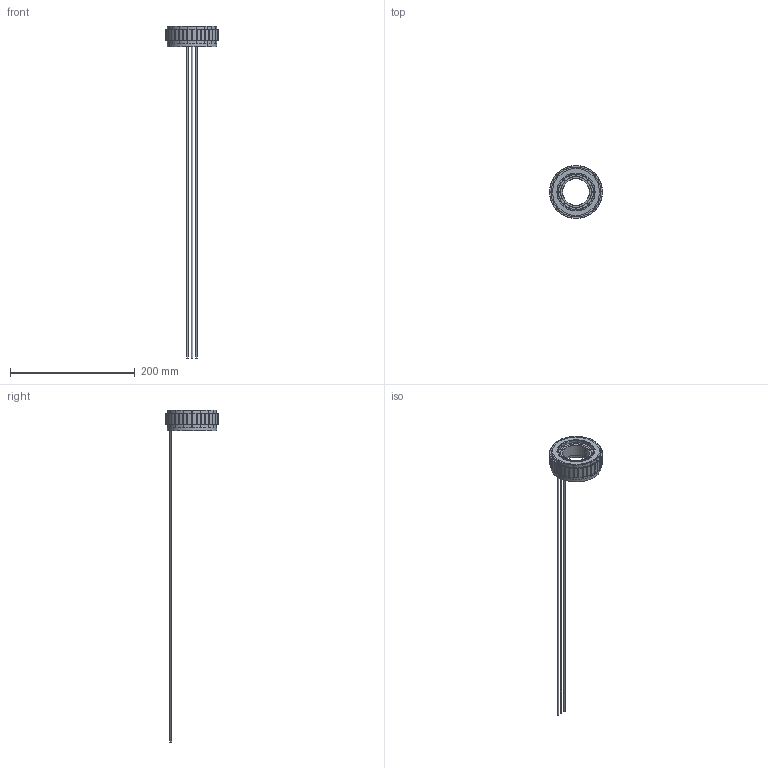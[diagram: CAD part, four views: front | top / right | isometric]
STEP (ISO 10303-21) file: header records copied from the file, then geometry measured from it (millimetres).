
FILE_DESCRIPTION (( 'STEP AP203' ), '1' );
FILE_NAME ('307090729SS 无框力矩电机（FMC08518-0062-3042N-8DS00）-V1.0.STEP', '2025-03-04T09:00:07', ( '' ), ( '' ), 'SwSTEP 2.0', 'SolidWorks 2023', '' );
FILE_SCHEMA (( 'CONFIG_CONTROL_DESIGN' ));
Length unit declared in the file: millimetre
Products named in the file (28): 10108010283 定子铁芯（85L18-18Z(B35A300)含骨架）; 复件 10212010009 漆包线（QZY-2-200   0.67 GB6109.5-88）^207012531 定子总成（85L18-2x0.67-14匝-2-16P星形）-V1.0; 10108060621 磁钢（85L20-16P-N45SH（S极）); 10108040239 转子铁芯（85L20-16P（40Cr电镀））-V1.0; 307090729SS 无框力矩电机（FMC08518-0062-3042N-8DS00）-V1.0; 207012531 定子总成（85L18-2x0.67-14匝-2-16P星形）-V1.0; 10108060620 磁钢（85L20-16P-N45SH（N极）); 复件 10212020232 电源线（AWM1332-14AWG 紫）^207012531 定子总成（85L18-2x0.67-14匝-2-16P星形）-V1.0; 复件 10212020231 电源线（AWM1332-14AWG 蓝）^207012531 定子总成（85L18-2x0.67-14匝-2-16P星形）-V1.0; 207042420 转子（FMC08518-0062-3042N-8DS00）-V1.0; 复件 10212020239 电源线（AWM1332-14AWG 棕）^207012531 定子总成（85L18-2x0.67-14匝-2-16P星形）-V1.0
Assembly tree (41 placements, depth 3):
  307090729SS 无框力矩电机（FMC08518-0062-3042N-8DS00）-V1.0
    207012531 定子总成（85L18-2x0.67-14匝-2-16P星形）-V1.0
      10108010283 定子铁芯（85L18-18Z(B35A300)含骨架）
      10108010283 定子铁芯（85L18-18Z(B35A300)含骨架）
      10108010283 定子铁芯（85L18-18Z(B35A300)含骨架）
      10108010283 定子铁芯（85L18-18Z(B35A300)含骨架）
      10108010283 定子铁芯（85L18-18Z(B35A300)含骨架）
      10108010283 定子铁芯（85L18-18Z(B35A300)含骨架）
      10108010283 定子铁芯（85L18-18Z(B35A300)含骨架）
      10108010283 定子铁芯（85L18-18Z(B35A300)含骨架）
      10108010283 定子铁芯（85L18-18Z(B35A300)含骨架）
      10108010283 定子铁芯（85L18-18Z(B35A300)含骨架）
      10108010283 定子铁芯（85L18-18Z(B35A300)含骨架）
      10108010283 定子铁芯（85L18-18Z(B35A300)含骨架）
      10108010283 定子铁芯（85L18-18Z(B35A300)含骨架）
      10108010283 定子铁芯（85L18-18Z(B35A300)含骨架）
      10108010283 定子铁芯（85L18-18Z(B35A300)含骨架）
      10108010283 定子铁芯（85L18-18Z(B35A300)含骨架）
      10108010283 定子铁芯（85L18-18Z(B35A300)含骨架）
      10108010283 定子铁芯（85L18-18Z(B35A300)含骨架）
      复件 10212020231 电源线（AWM1332-14AWG 蓝）^207012531 定子总成（85L18-2x0.67-14匝-2-16P星形）-V1.0
      复件 10212020232 电源线（AWM1332-14AWG 紫）^207012531 定子总成（85L18-2x0.67-14匝-2-16P星形）-V1.0
      复件 10212020239 电源线（AWM1332-14AWG 棕）^207012531 定子总成（85L18-2x0.67-14匝-2-16P星形）-V1.0
      复件 10212010009 漆包线（QZY-2-200   0.67 GB6109.5-88）^207012531 定子总成（85L18-2x0.67-14匝-2-16P星形）-V1.0
    207042420 转子（FMC08518-0062-3042N-8DS00）-V1.0
      10108040239 转子铁芯（85L20-16P（40Cr电镀））-V1.0
      10108060620 磁钢（85L20-16P-N45SH（N极）)  x8
      10108060621 磁钢（85L20-16P-N45SH（S极）)  x8
Bounding box: 84.98 x 84.98 x 533 mm (x, y, z)
Volume: 112022.6 mm3; surface area: 79783.8 mm2
Topology: 40 solids, 40 shells, 1782 faces, 4804 edges, 3152 vertices
Faces by surface type: plane 998, cylinder 408, bspline 368, cone 8
Entity records: 41979 total; most frequent: CARTESIAN_POINT 9703, ORIENTED_EDGE 6080, DIRECTION 6074, EDGE_CURVE 3040, LINE 2026, VECTOR 2026, AXIS2_PLACEMENT_3D 2024, VERTEX_POINT 1976
